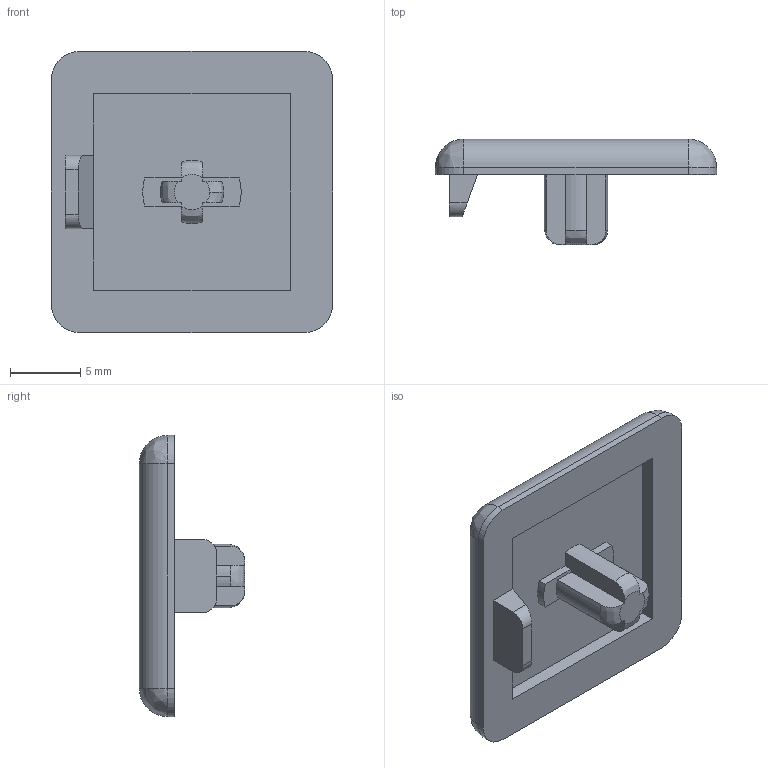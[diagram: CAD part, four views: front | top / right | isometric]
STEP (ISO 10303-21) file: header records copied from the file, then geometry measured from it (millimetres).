
FILE_DESCRIPTION (( 'STEP AP203' ), '1' );
FILE_NAME ('10015_ABD5.2020.STEP', '2018-03-08T09:43:37', ( '' ), ( '' ), 'SwSTEP 2.0', 'SolidWorks 2017', '' );
FILE_SCHEMA (( 'CONFIG_CONTROL_DESIGN' ));
Length unit declared in the file: millimetre
Products named in the file (1): 10015_ABD5.2020
Bounding box: 20 x 7.5 x 20 mm (x, y, z)
Volume: 822.9 mm3; surface area: 1107.7 mm2
Topology: 1 solids, 1 shells, 58 faces, 152 edges, 94 vertices
Faces by surface type: plane 31, cylinder 18, bspline 9
Entity records: 2000 total; most frequent: CARTESIAN_POINT 557, ORIENTED_EDGE 296, DIRECTION 269, EDGE_CURVE 148, LINE 97, VECTOR 97, VERTEX_POINT 94, AXIS2_PLACEMENT_3D 86
